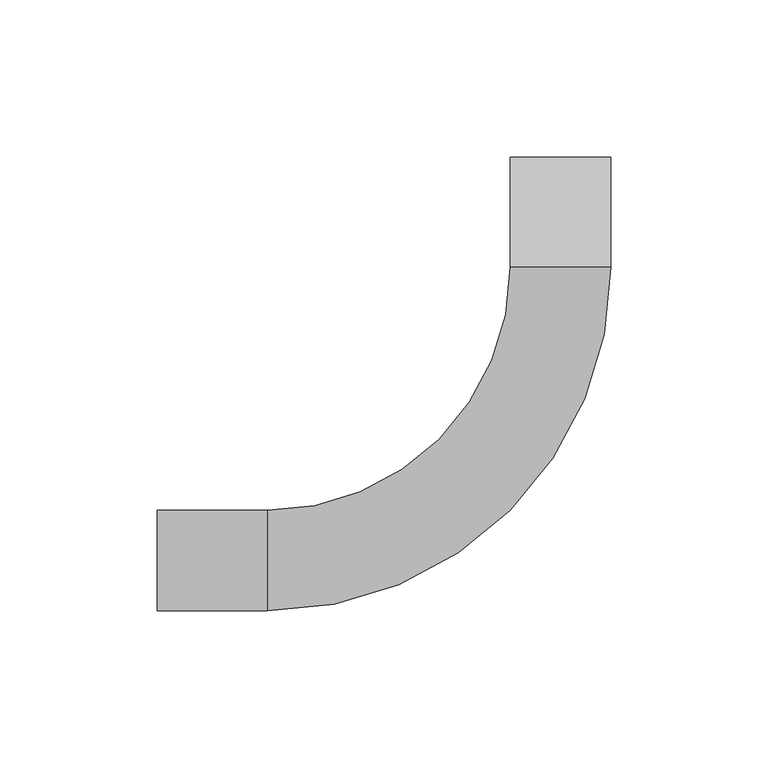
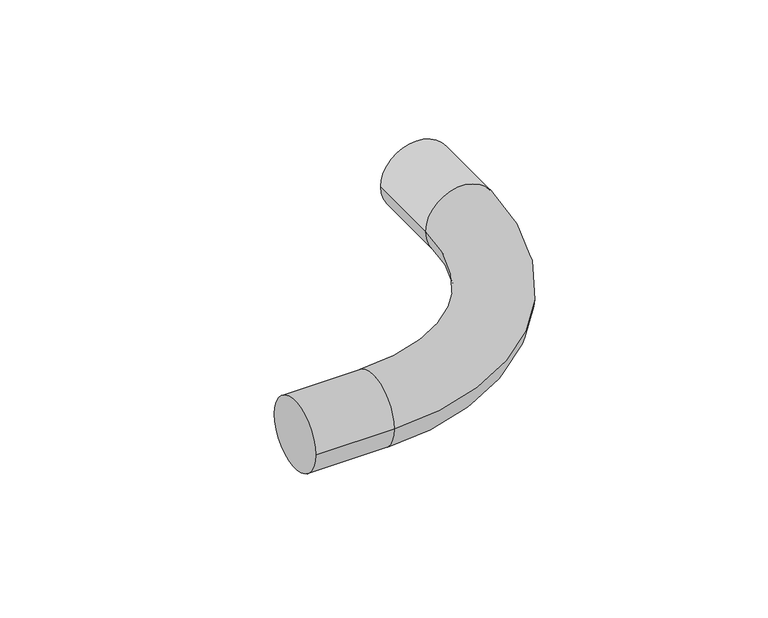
"""IFC4 building model written with IfcOpenShell, lengths in millimetres: cable carrier fitting geometry, Отвод Трубы гладкие жесткие ПВХ : Отвод Трубы гладкие жесткие ПВХ."""

from ifc_helpers import new_model, si_unit, point, frame, origin, place, context, project, spatial, circle_curve, ellipse_curve, trimmed, source, transform, mapped, element, save
from ifc_brep_helpers import plane_surface, cylinder_surface, revolved_surface, advanced_brep


def cable_carrier_fitting_309cf5c9(model_context):
    return source(origin(), model_context, "Body", "AdvancedBrep", [
        advanced_brep(
        [(-128.27, -15.9893, 0.0), (-128.27, 15.9893, 0.0), (-93.2942, -15.9893, 0.0), (-93.2942, 15.9893, 0.0), (-15.9893, 93.2942, 0.0), (15.9893, 93.2942, 0.0), (15.9893, 128.27, 0.0), (-15.9893, 128.27, 0.0)],
        [
            (0, 1, circle_curve(frame((-128.27, 0.0, 0.0), z_axis=(-1.0, 0.0, 0.0), x_axis=(0.0, 1.0, 0.0)), 15.9893)),
            (1, 0, circle_curve(frame((-128.27, 0.0, 0.0), z_axis=(-1.0, 0.0, 0.0), x_axis=(0.0, 1.0, 0.0)), 15.9893)),
            (0, 2),
            (2, 3, circle_curve(frame((-93.2942, 0.0, 0.0), z_axis=(-1.0, 0.0, 0.0), x_axis=(0.0, 1.0, 0.0)), 15.9893)),
            (3, 1),
            (3, 2, circle_curve(frame((-93.2942, 0.0, 0.0), z_axis=(-1.0, 0.0, 0.0), x_axis=(0.0, 1.0, 0.0)), 15.9893)),
            (4, 3, circle_curve(frame((-93.2942, 93.2942, 0.0), z_axis=(0.0, 0.0, -1.0), x_axis=(0.0, -1.0, 0.0)), 77.3049)),
            (2, 5, circle_curve(frame((-93.2942, 93.2942, 0.0), z_axis=(0.0, 0.0, 1.0), x_axis=(0.0, -1.0, 0.0)), 109.2835)),
            (5, 4, circle_curve(frame((0.0, 93.2942, 0.0), z_axis=(0.0, -1.0, 0.0), x_axis=(-1.0, 0.0, 0.0)), 15.9893)),
            (4, 5, circle_curve(frame((0.0, 93.2942, 0.0), z_axis=(0.0, -1.0, 0.0), x_axis=(-1.0, 0.0, 0.0)), 15.9893)),
            (6, 7, circle_curve(frame((0.0, 128.27, 0.0), z_axis=(0.0, 1.0, 0.0), x_axis=(-1.0, 0.0, 0.0)), 15.9893)),
            (7, 6, circle_curve(frame((0.0, 128.27, 0.0), z_axis=(0.0, 1.0, 0.0), x_axis=(-1.0, 0.0, 0.0)), 15.9893)),
            (5, 6),
            (7, 4),
        ],
        [
            plane_surface(frame((-128.27, 0.0, 0.0), z_axis=(-1.0, 0.0, 0.0), x_axis=(0.0, 0.0, 1.0))),
            cylinder_surface(frame((-128.27, 0.0, 0.0), z_axis=(-1.0, 0.0, 0.0), x_axis=(0.0, 1.0, 0.0)), 15.9893),
            revolved_surface(trimmed(ellipse_curve(frame((-93.2942, 0.0, 0.0), z_axis=(-1.0, 0.0, 0.0), x_axis=(0.0, 1.0, 0.0)), 15.9893, 15.9893), [point((-93.2942, -15.9893, 0.0))], [point((-93.2942, 15.9893, 0.0))], True, "CARTESIAN"), (-93.2942, 93.2942, 0.0), (0.0, 0.0, 1.0)),
            revolved_surface(trimmed(ellipse_curve(frame((-93.2942, 0.0, 0.0), z_axis=(-1.0, 0.0, 0.0), x_axis=(0.0, 1.0, 0.0)), 15.9893, 15.9893), [point((-93.2942, 15.9893, 0.0))], [point((-93.2942, -15.9893, 0.0))], True, "CARTESIAN"), (-93.2942, 93.2942, 0.0), (0.0, 0.0, 1.0)),
            plane_surface(frame((0.0, 128.27, 0.0), z_axis=(0.0, 1.0, 0.0), x_axis=(0.0, 0.0, 1.0))),
            cylinder_surface(frame((0.0, 93.2942, 0.0), z_axis=(0.0, -1.0, 0.0), x_axis=(-1.0, 0.0, 0.0)), 15.9893),
        ],
        [
            (0, [[1, 2]]),
            (1, [[-1, 3, 4, 5]]),
            (1, [[-2, -5, 6, -3]]),
            (2, [[7, -4, 8, 9]]),
            (3, [[-8, -6, -7, 10]]),
            (4, [[11, 12]]),
            (5, [[-9, 13, -12, 14]]),
            (5, [[-10, -14, -11, -13]]),
        ],
    ),
    ])


if __name__ == "__main__":
    model = new_model("IFC4")
    model_context = context("Model", 3, world=origin())
    ifc_project = project(units=[si_unit("LENGTHUNIT", "METRE", prefix="MILLI")], contexts=[model_context])
    site = spatial("IfcSite", under=ifc_project)
    building = spatial("IfcBuilding", under=site)
    placement = place(None, origin())
    cable_carrier_fitting_shape = cable_carrier_fitting_309cf5c9(model_context)
    element("IfcCableCarrierFitting", 1, ObjectType="Отвод Трубы гладкие жесткие ПВХ : Отвод Трубы гладкие жесткие ПВХ", at=placement, inside=building, context=model_context, shape_type="MappedRepresentation", body=[
        mapped(cable_carrier_fitting_shape, transform((0.0, 0.0, 0.0), x_axis=(1.0, 0.0, 0.0), y_axis=(0.0, 1.0, 0.0), z_axis=(0.0, 0.0, 1.0))),
    ])
    save(model, "model.ifc")
